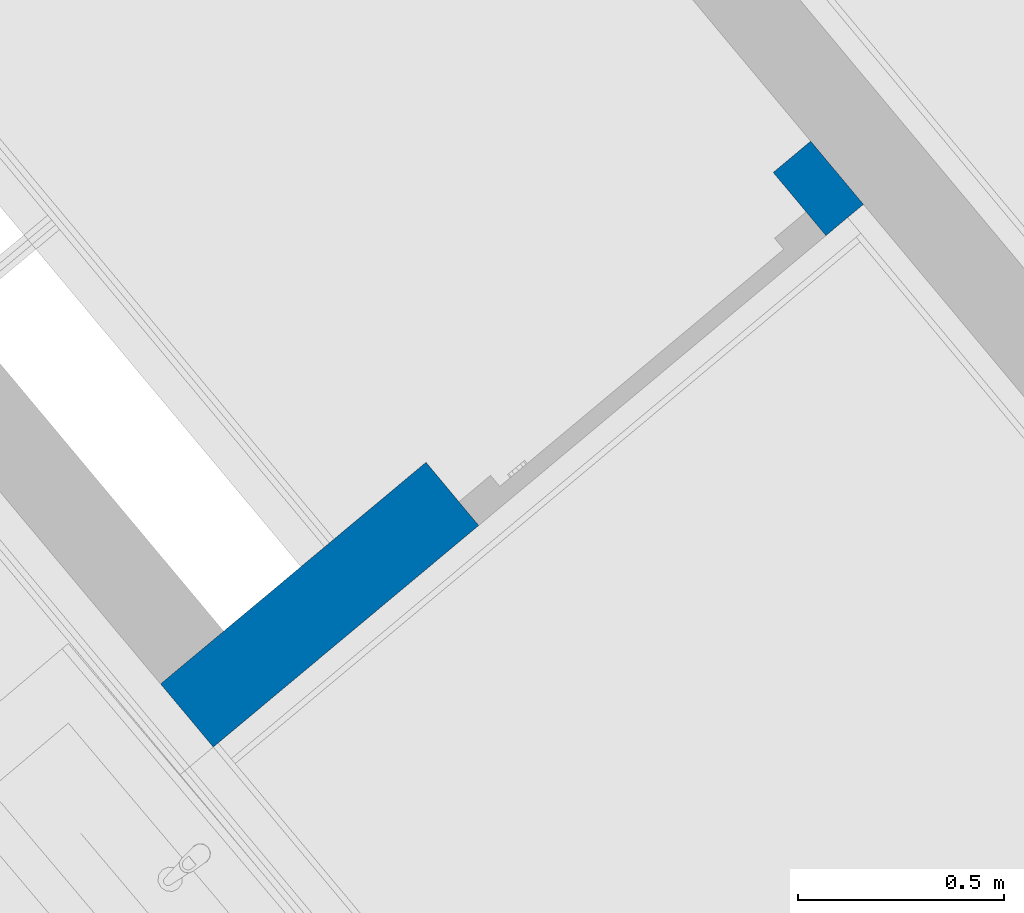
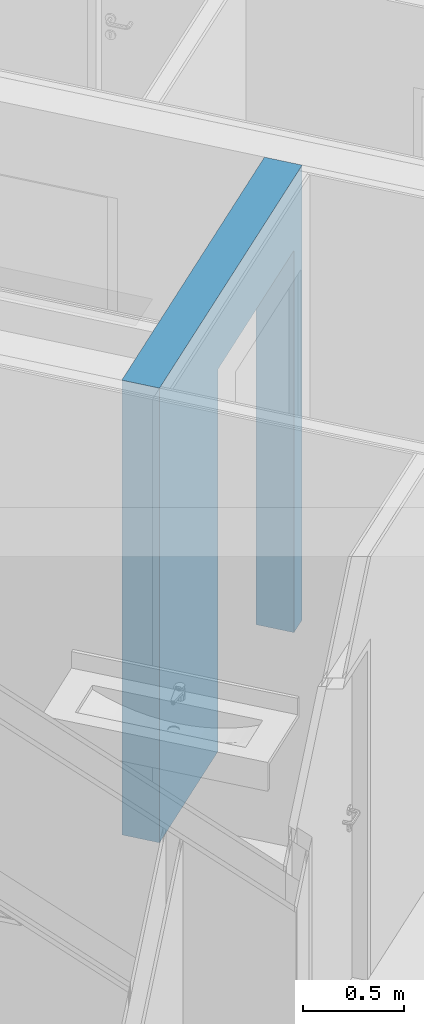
# One storey, part 7 of 75: 1 wall, 1 opening.
"""IFC4 building model written with IfcOpenShell, lengths in metres."""

import ifcopenshell
import ifcopenshell.guid

model = None  # the IFC model being written
_history = None  # IfcOwnerHistory: only IFC2X3 demands one
_inside = {}  # id of a spatial element -> (the spatial element, [elements in it])
_under = {}  # id of a project, library or spatial element -> (it, [spatial elements below it])
_declared = {}  # id of a project -> (the project, [libraries it declares])
_typed = {}  # id of a type object -> (the type object, [elements of that type])
_made_of = {}  # id of a material, layer set ... -> (it, [elements and type objects made of it])


def new_model(schema):
    """Start an empty IFC model of exactly this schema.

    Asked for "IFC4X3", IfcOpenShell would pick the latest addendum, in which some entities
    have other attributes; the version numbers below select the first issue.
    IFC2X3 requires an IfcOwnerHistory on every rooted entity: one is made here for all.
    """
    global model, _history
    if schema == "IFC4X3":
        model = ifcopenshell.file(schema_version=(4, 3, 0, 0))
    else:
        model = ifcopenshell.file(schema=schema)
    _inside.clear()
    _under.clear()
    _declared.clear()
    _typed.clear()
    _made_of.clear()
    _history = None
    if model.schema == "IFC2X3":
        org = make("IfcOrganization", Name="unknown")
        user = make(
            "IfcPersonAndOrganization",
            ThePerson=make("IfcPerson", FamilyName="unknown"),
            TheOrganization=org,
        )
        app = make(
            "IfcApplication",
            ApplicationDeveloper=org,
            Version="unknown",
            ApplicationFullName="unknown",
            ApplicationIdentifier="unknown",
        )
        _history = make(
            "IfcOwnerHistory",
            OwningUser=user,
            OwningApplication=app,
            ChangeAction="ADDED",
            CreationDate=0,
        )
    return model


def make(cls, **values):
    """One entity of the class cls with the attributes given. An attribute that is None is left unset."""
    return model.create_entity(
        cls, **{name: value for name, value in values.items() if value is not None}
    )


def entity(cls, *values):
    """Any entity or typed value of the class cls, its attributes in the order of the schema. None: left unset."""
    e = model.create_entity(cls)
    for i, value in enumerate(values):
        if value is not None:
            e[i] = value
    return e


def rooted(cls, **values):
    """An entity with a GlobalId (a new one), such as an element, a storey or a relation."""
    return make(cls, GlobalId=ifcopenshell.guid.new(), OwnerHistory=_history, **values)


def si_unit(unit_type, name, prefix=None):
    """IfcSIUnit, for example si_unit("LENGTHUNIT", "METRE", prefix="MILLI")."""
    return make("IfcSIUnit", UnitType=unit_type, Prefix=prefix, Name=name)


def converted_unit(unit_type, name, factor, base, dimensions=None, offset=None):
    """IfcConversionBasedUnit, such as the inch: factor (a typed value) times the base unit."""
    return make(
        "IfcConversionBasedUnit"
        if offset is None
        else "IfcConversionBasedUnitWithOffset",
        ConversionOffset=offset,
        Dimensions=None
        if dimensions is None
        else entity("IfcDimensionalExponents", *dimensions),
        UnitType=unit_type,
        Name=name,
        ConversionFactor=make(
            "IfcMeasureWithUnit", ValueComponent=factor, UnitComponent=base
        ),
    )


def derived_unit(unit_type, elements):
    """IfcDerivedUnit: a product of units, each with its exponent."""
    return make(
        "IfcDerivedUnit",
        Elements=[
            make("IfcDerivedUnitElement", Unit=unit, Exponent=power)
            for unit, power in elements
        ],
        UnitType=unit_type,
    )


def assignment(units):
    """IfcUnitAssignment: the units of a project."""
    return None if units is None else make("IfcUnitAssignment", Units=units)


def point(xyz):
    """IfcCartesianPoint."""
    return None if xyz is None else make("IfcCartesianPoint", Coordinates=xyz)


def direction(xyz):
    """IfcDirection."""
    return None if xyz is None else make("IfcDirection", DirectionRatios=xyz)


def frame(location, z_axis=None, x_axis=None):
    """IfcAxis2Placement3D, a coordinate frame: its origin and axes. An axis left out is left unset."""
    return make(
        "IfcAxis2Placement3D",
        Location=point(location),
        Axis=direction(z_axis),
        RefDirection=direction(x_axis),
    )


def origin_with_axes():
    """The frame at (0, 0, 0) with the z axis (0, 0, 1) and the x axis (1, 0, 0) written out."""
    return frame((0.0, 0.0, 0.0), z_axis=(0.0, 0.0, 1.0), x_axis=(1.0, 0.0, 0.0))


def place(relative_to, where):
    """IfcLocalPlacement: puts the frame where relative to a parent placement (None: the world)."""
    return make(
        "IfcLocalPlacement", PlacementRelTo=relative_to, RelativePlacement=where
    )


def context(
    kind, dimensions, precision=None, world=None, true_north=None, identifier=None
):
    """IfcGeometricRepresentationContext, for example the 3D "Model" context."""
    return make(
        "IfcGeometricRepresentationContext",
        ContextIdentifier=identifier,
        ContextType=kind,
        CoordinateSpaceDimension=dimensions,
        Precision=precision,
        WorldCoordinateSystem=world,
        TrueNorth=true_north,
    )


def subcontext(parent, identifier, kind, view, scale=None):
    """IfcGeometricRepresentationSubContext, for example "Body" below "Model"."""
    return make(
        "IfcGeometricRepresentationSubContext",
        ContextIdentifier=identifier,
        ContextType=kind,
        ParentContext=parent,
        TargetScale=scale,
        TargetView=view,
    )


def project(units=None, contexts=None):
    """IfcProject with its units and contexts."""
    return rooted(
        "IfcProject",
        Name="project",
        RepresentationContexts=contexts,
        UnitsInContext=assignment(units),
    )


def spatial(cls, under=None, at=None, **own):
    """A site, building, storey or space (cls), placed at a placement, below another one or the project."""
    s = rooted(cls, ObjectPlacement=at, **own)
    if under is not None:
        _under.setdefault(under.id(), (under, []))[1].append(s)
    return s


def point_list(points):
    """IfcCartesianPointList2D or 3D."""
    cls = (
        "IfcCartesianPointList2D" if len(points[0]) == 2 else "IfcCartesianPointList3D"
    )
    return make(cls, CoordList=points)


def polygons(points, faces, closed=None, point_numbers=None):
    """IfcPolygonalFaceSet: a face is its outer loop, then its inner loops; points numbered from 1."""
    made = []
    for loops in faces:
        if len(loops) == 1:
            made.append(make("IfcIndexedPolygonalFace", CoordIndex=loops[0]))
        else:
            made.append(
                make(
                    "IfcIndexedPolygonalFaceWithVoids",
                    CoordIndex=loops[0],
                    InnerCoordIndices=loops[1:],
                )
            )
    return make(
        "IfcPolygonalFaceSet",
        Coordinates=point_list(points),
        Closed=closed,
        Faces=made,
        PnIndex=point_numbers,
    )


def shape(context_of_items, identifier, shape_type, items):
    """IfcShapeRepresentation: the items that make up one representation, for example the "Body"."""
    return make(
        "IfcShapeRepresentation",
        ContextOfItems=context_of_items,
        RepresentationIdentifier=identifier,
        RepresentationType=shape_type,
        Items=items,
    )


def material(Name=None, Category=None):
    """IfcMaterial."""
    return make("IfcMaterial", Name=Name, Category=Category)


def made_of(thing, what):
    """Note that an element or type object is made of a material, layer set ...; save() writes the relation."""
    if what is not None:
        _made_of.setdefault(what.id(), (what, []))[1].append(thing)
    return thing


def type_object(cls, material=None, **own):
    """A type object (cls), such as IfcWallType, which elements share."""
    return made_of(rooted(cls, **own), material)


def element(
    cls,
    number,
    at=None,
    inside=None,
    cuts=None,
    type_object=None,
    material=None,
    context=None,
    identifier="Body",
    shape_type=None,
    held_by="IfcProductDefinitionShape",
    body=None,
    shapes=None,
    **own,
):
    """One element of the class cls, such as IfcWall. Its Tag is "e" and its number.

    at: its placement. inside: the storey or other place that contains it. cuts: it is an
    opening in that element (IfcRelVoidsElement). A single representation is given by context,
    identifier, shape_type and body (its items); several are given by shapes. held_by: the class
    of the entity that holds the representations. save() writes the other relations.
    """
    e = rooted(cls, Tag="e%d" % number, ObjectPlacement=at, **own)
    if body is not None:
        shapes = [shape(context, identifier, shape_type, body)]
    if shapes is not None:
        e.Representation = make(held_by, Representations=shapes)
    if inside is not None:
        _inside.setdefault(inside.id(), (inside, []))[1].append(e)
    if cuts is not None:
        rooted(
            "IfcRelVoidsElement", RelatingBuildingElement=cuts, RelatedOpeningElement=e
        )
    if type_object is not None:
        _typed.setdefault(type_object.id(), (type_object, []))[1].append(e)
    return made_of(e, material)


def aggregate(whole, parts):
    """IfcRelAggregates: a whole, such as a stair, and the parts it consists of."""
    return rooted("IfcRelAggregates", RelatingObject=whole, RelatedObjects=parts)


def save(model, path):
    """Write the relations noted so far, then the file.

    IfcRelAggregates (storeys below a building ...), IfcRelContainedInSpatialStructure (elements
    in a storey), IfcRelDefinesByType, IfcRelAssociatesMaterial and IfcRelDeclares: one each for
    every whole, place, type object, material and project.
    """
    for whole, parts in _under.values():
        aggregate(whole, parts)
    for where, things in _inside.values():
        rooted(
            "IfcRelContainedInSpatialStructure",
            RelatedElements=things,
            RelatingStructure=where,
        )
    for kind, things in _typed.values():
        rooted("IfcRelDefinesByType", RelatedObjects=things, RelatingType=kind)
    for what, things in _made_of.values():
        rooted("IfcRelAssociatesMaterial", RelatedObjects=things, RelatingMaterial=what)
    for by, libraries in _declared.values():
        rooted("IfcRelDeclares", RelatingContext=by, RelatedDefinitions=libraries)
    model.write(path)


model = new_model("IFC4")

# Units and contexts
model_context = context("Model", 3, precision=1e-05, world=origin_with_axes(), true_north=direction((0.0, 1.0)))
body_context = subcontext(model_context, "Body", "Model", "MODEL_VIEW")
ifc_project = project(units=[si_unit("LENGTHUNIT", "METRE"), si_unit("AREAUNIT", "SQUARE_METRE"), si_unit("VOLUMEUNIT", "CUBIC_METRE"), converted_unit("PLANEANGLEUNIT", "DEGREE", entity("IfcPlaneAngleMeasure", 0.0174532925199), si_unit("PLANEANGLEUNIT", "RADIAN"), dimensions=[0, 0, 0, 0, 0, 0, 0]), converted_unit("TIMEUNIT", "Year", entity("IfcTimeMeasure", 31556926.0), si_unit("TIMEUNIT", "SECOND"), dimensions=[0, 0, 1, 0, 0, 0, 0]), si_unit("MASSUNIT", "GRAM", prefix="KILO"), si_unit("THERMODYNAMICTEMPERATUREUNIT", "DEGREE_CELSIUS"), si_unit("LUMINOUSINTENSITYUNIT", "LUMEN"), si_unit("ENERGYUNIT", "JOULE", prefix="MEGA"), derived_unit("THERMALCONDUCTANCEUNIT", [(si_unit("POWERUNIT", "WATT"), 1), (si_unit("LENGTHUNIT", "METRE"), -1), (si_unit("THERMODYNAMICTEMPERATUREUNIT", "KELVIN"), -1)]), derived_unit("SPECIFICHEATCAPACITYUNIT", [(si_unit("ENERGYUNIT", "JOULE"), 1), (si_unit("MASSUNIT", "GRAM", prefix="KILO"), -1), (si_unit("THERMODYNAMICTEMPERATUREUNIT", "KELVIN"), -1)]), derived_unit("MASSDENSITYUNIT", [(si_unit("MASSUNIT", "GRAM", prefix="KILO"), 1), (si_unit("VOLUMEUNIT", "CUBIC_METRE"), -1)])], contexts=[model_context])

# Site, building, storey
site_placement = place(None, frame((-0.00153261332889, -0.00661245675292, 0.0), z_axis=(0.0, 0.0, 1.0), x_axis=(1.0, 0.0, 0.0)))
site = spatial("IfcSite", under=ifc_project, at=site_placement, Name="Gelände", CompositionType="ELEMENT")
building_placement = place(site_placement, origin_with_axes())
building = spatial("IfcBuilding", under=site, at=building_placement, Name="Gebäude", CompositionType="ELEMENT")
storey_placement = place(building_placement, frame((0.0, 0.0, -0.22), z_axis=(0.0, 0.0, 1.0), x_axis=(1.0, 0.0, 0.0)))
storey = spatial("IfcBuildingStorey", under=building, at=storey_placement, Name="EG", CompositionType="ELEMENT", Elevation=-0.22)

# Wall, opening
ifc_material = material(Name="Stahlbeton Wand")
wall_type = type_object("IfcWallType", Name="Stahlbeton Wand 200", PredefinedType="NOTDEFINED")
wall_placement = place(storey_placement, frame((3.23525106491, 22.230161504, 0.0), z_axis=(0.0, 0.0, 1.0), x_axis=(-0.767670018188, -0.640845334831, 0.0)))
wall = element("IfcWall", 1, at=wall_placement, inside=storey, type_object=wall_type, material=ifc_material, Name="Wand-003", PredefinedType="NOTDEFINED", context=body_context, shape_type="Tessellation", body=[
    polygons([(1.21873786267, -7.61218643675e-09, 0.22), (1.21873786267, -7.61218643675e-09, 2.32), (0.118737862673, -7.61218643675e-09, 2.32), (0.118737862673, 1.97544824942e-08, 0.22), (0.118737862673, 1.97544824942e-08, 0.0), (0.0, 0.0, 0.0), (0.0, 0.0, 2.76), (2.05944411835, 0.0, 2.76), (2.05944411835, 0.0, 0.0), (1.21873785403, -7.61218643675e-09, 0.0), (1.21873786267, -0.075, 0.22), (1.21873786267, -0.075, 2.32), (0.118737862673, -0.075, 2.32), (0.118737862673, -0.075, 0.22), (0.118737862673, -0.2, 0.22), (0.118737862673, -0.2, 0.0), (0.0, -0.2, 0.0), (0.0, -0.2, 2.76), (2.05953901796, -0.2, 2.76), (2.05953901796, -0.2, 0.0), (1.2187378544, -0.2, 0.0), (1.21873786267, -0.2, 0.22), (1.21873786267, -0.2, 2.32), (0.118737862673, -0.2, 2.32)], [[[1, 2, 3, 4, 5, 6, 7, 8, 9, 10]], [[2, 1, 11, 12]], [[3, 2, 12, 13]], [[4, 3, 13, 14]], [[4, 14, 15, 16, 5]], [[16, 17, 6, 5]], [[17, 18, 7, 6]], [[19, 8, 7, 18]], [[8, 19, 20, 9]], [[10, 9, 20, 21]], [[11, 1, 10, 21, 22]], [[12, 11, 22, 23]], [[13, 12, 23, 24]], [[14, 13, 24, 15]], [[16, 15, 24, 23, 22, 21, 20, 19, 18, 17]]], closed=True),
])
opening_placement = place(wall_placement, frame((0.668737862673, 0.0, 0.22), z_axis=(0.0, 0.0, 1.0), x_axis=(1.0, 0.0, 0.0)))
element("IfcOpeningElement", 2, at=opening_placement, cuts=wall, Name="Tür-001", context=body_context, identifier="Reference", shape_type="Tessellation", body=[
    polygons([(0.55, -0.075, -0.22), (0.55, -0.075, 2.1), (0.55, -1.2141594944, 2.1), (0.55, -1.2141594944, -0.22), (0.55, 1.0141594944, -0.22), (0.55, 1.0141594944, 2.1), (-0.55, -0.075, 2.1), (-0.55, -1.2141594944, 2.1), (-0.55, 1.0141594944, 2.1), (-0.55, -1.2141594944, -0.22), (-0.55, -0.075, -0.22), (-0.55, 1.0141594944, -0.22)], [[[1, 2, 3, 4]], [[2, 1, 5, 6]], [[7, 8, 3, 2, 6, 9]], [[8, 10, 4, 3]], [[1, 4, 10, 11, 12, 5]], [[6, 5, 12, 9]], [[7, 11, 10, 8]], [[11, 7, 9, 12]]], closed=True),
])

save(model, "model.ifc")
